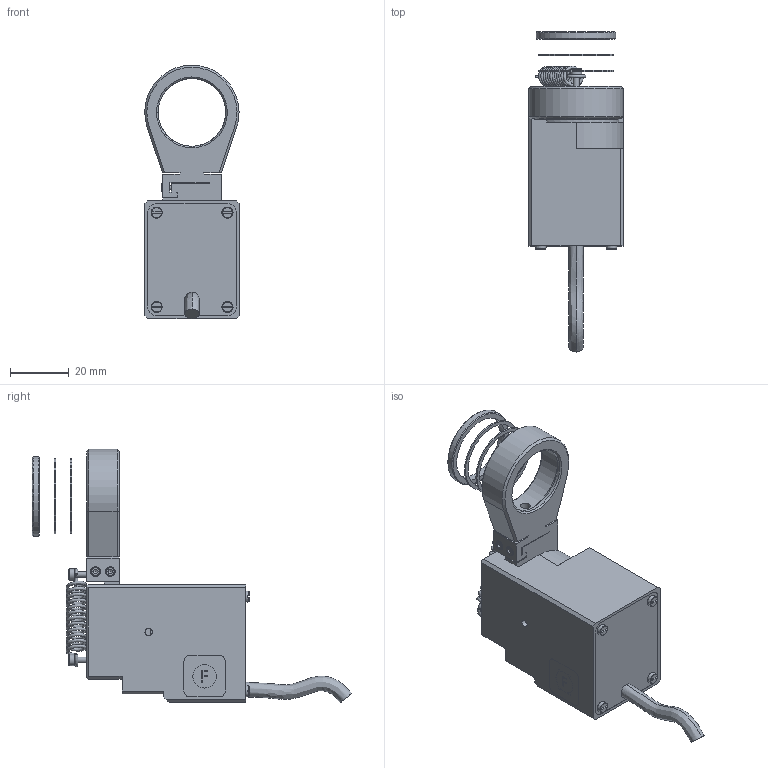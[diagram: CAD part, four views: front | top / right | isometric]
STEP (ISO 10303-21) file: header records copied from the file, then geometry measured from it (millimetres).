
FILE_DESCRIPTION(/* description */ (''),/* implementation_level */ '2;1');
FILE_NAME(/* name */ 'U:\KONSTRUKTORIAI\DOKUMENTACIJA\8\8MFM-2\STEP\8MFM SB + 4FOM-1 SB.stp',/* time_stamp */ '2020-06-01T11:04:35+03:00',/* author */ ('dsgn32'),/* organization */ (''),/* preprocessor_version */ 'ST-DEVELOPER v15.2',/* originating_system */ 'Autodesk Inventor 2014',/* authorisation */ '');
FILE_SCHEMA (('CONFIG_CONTROL_DESIGN'));
Length unit declared in the file: millimetre
Products named in the file (1): 8MFM SB + 4FOM-1 SB
Bounding box: 32.05 x 108.44 x 86 mm (x, y, z)
Volume: 69859.6 mm3; surface area: 19262 mm2
Topology: 5 solids, 24 shells, 888 faces, 2296 edges, 1513 vertices
Faces by surface type: plane 485, bspline 220, cylinder 111, cone 43, torus 27, sphere 2
Full cylindrical faces by diameter (mm): 1.221 x2, 1.567 x6, 1.6 x2, 1.9 x2, 2 x7, 2.4 x5, 2.459 x7, 3 x2, 3.242 x1, 3.3 x2, 3.8 x7, 4.3 x7, 4.917 x1, 7.98 x1, 8 x1, 23 x4, 25.5 x2, 25.917 x1, 27 x1, 27.5 x1
Entity records: 30036 total; most frequent: CARTESIAN_POINT 9703, ORIENTED_EDGE 4228, DIRECTION 3235, EDGE_CURVE 2111, VERTEX_POINT 1451, LINE 1279, VECTOR 1279, EDGE_LOOP 1099
